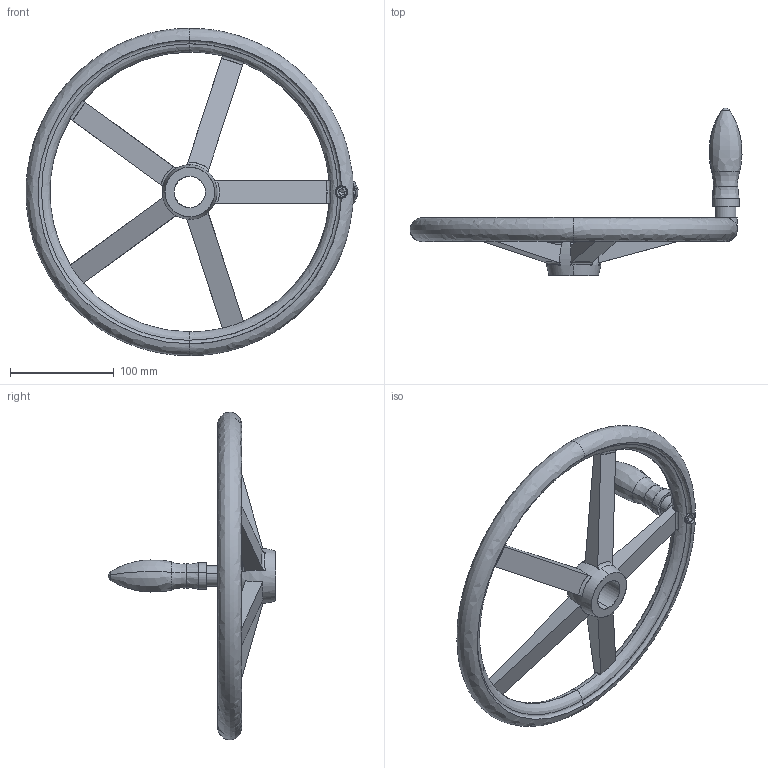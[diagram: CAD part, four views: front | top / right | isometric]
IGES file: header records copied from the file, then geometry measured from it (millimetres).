
Start section: SolidWorks IGES file using analytic representation for surfaces
Global section: file name: C:\Users\IanO\Desktop\Temp File\Process pending\77120_v2\77120_v2_20171108_IGES\77120.W0246.igs; native system: SolidWorks 2017; preprocessor: SolidWorks 2017; author: IanO; date: 171108.084430; units: millimetre
Bounding box: 319.33 x 161.5 x 315 mm (x, y, z)
Surface area: 131044 mm2 (no closed solid volume)
Topology: 0 solids, 0 shells, 152 faces, 2197 edges, 2190 vertices
Faces by surface type: bspline 82, revolution 70
